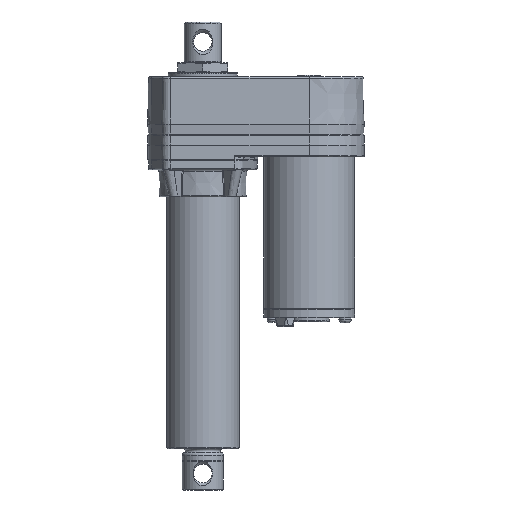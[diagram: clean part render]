
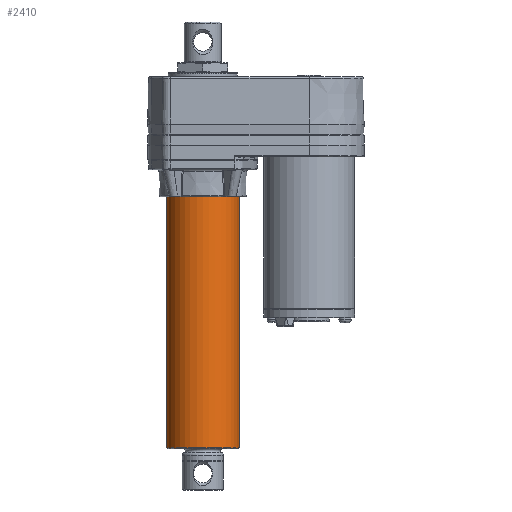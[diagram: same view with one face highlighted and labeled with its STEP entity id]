
A CAD part, left-side view. The second image highlights one B-rep face of the part: STEP entity #2410.
In plain terms, the highlighted cylindrical face has radius 25.4 mm (diameter 50.8 mm), a full revolution.
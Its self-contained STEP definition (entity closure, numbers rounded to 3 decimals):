
#17 = VERTEX_POINT ( 'NONE', #22980 ) ;
#2410 = ADVANCED_FACE ( 'NONE', ( #16918, #23180 ), #16194, .T. ) ;
#3298 = AXIS2_PLACEMENT_3D ( 'NONE', #24176, #12473, #7752 ) ;
#4508 = EDGE_CURVE ( 'NONE', #25337, #25337, #27510, .T. ) ;
#5350 = AXIS2_PLACEMENT_3D ( 'NONE', #8312, #24748, #10677 ) ;
#7129 = ORIENTED_EDGE ( 'NONE', *, *, #4508, .T. ) ;
#7752 = DIRECTION ( 'NONE',  ( 1., 0., 0. ) ) ;
#8312 = CARTESIAN_POINT ( 'NONE',  ( 0., 0., -43.714 ) ) ;
#10677 = DIRECTION ( 'NONE',  ( 1., 0., 0. ) ) ;
#11042 = CARTESIAN_POINT ( 'NONE',  ( 0., 0., -219.8 ) ) ;
#12473 = DIRECTION ( 'NONE',  ( 0., 0., 1. ) ) ;
#13419 = DIRECTION ( 'NONE',  ( 1., 0., 0. ) ) ;
#14750 = AXIS2_PLACEMENT_3D ( 'NONE', #11042, #27443, #13419 ) ;
#16194 = CYLINDRICAL_SURFACE ( 'NONE', #3298, 25.4 ) ;
#16918 = FACE_OUTER_BOUND ( 'NONE', #20000, .T. ) ;
#18077 = EDGE_LOOP ( 'NONE', ( #7129 ) ) ;
#20000 = EDGE_LOOP ( 'NONE', ( #29724 ) ) ;
#22980 = CARTESIAN_POINT ( 'NONE',  ( 25.4, 0., -43.714 ) ) ;
#23180 = FACE_OUTER_BOUND ( 'NONE', #18077, .T. ) ;
#23863 = EDGE_CURVE ( 'NONE', #17, #17, #25699, .T. ) ;
#24176 = CARTESIAN_POINT ( 'NONE',  ( 0., 0., 0. ) ) ;
#24748 = DIRECTION ( 'NONE',  ( 0., 0., 1. ) ) ;
#25337 = VERTEX_POINT ( 'NONE', #27276 ) ;
#25699 = CIRCLE ( 'NONE', #5350, 25.4 ) ;
#27276 = CARTESIAN_POINT ( 'NONE',  ( 25.4, 0., -219.8 ) ) ;
#27443 = DIRECTION ( 'NONE',  ( 0., 0., 1. ) ) ;
#27510 = CIRCLE ( 'NONE', #14750, 25.4 ) ;
#29724 = ORIENTED_EDGE ( 'NONE', *, *, #23863, .F. ) ;
